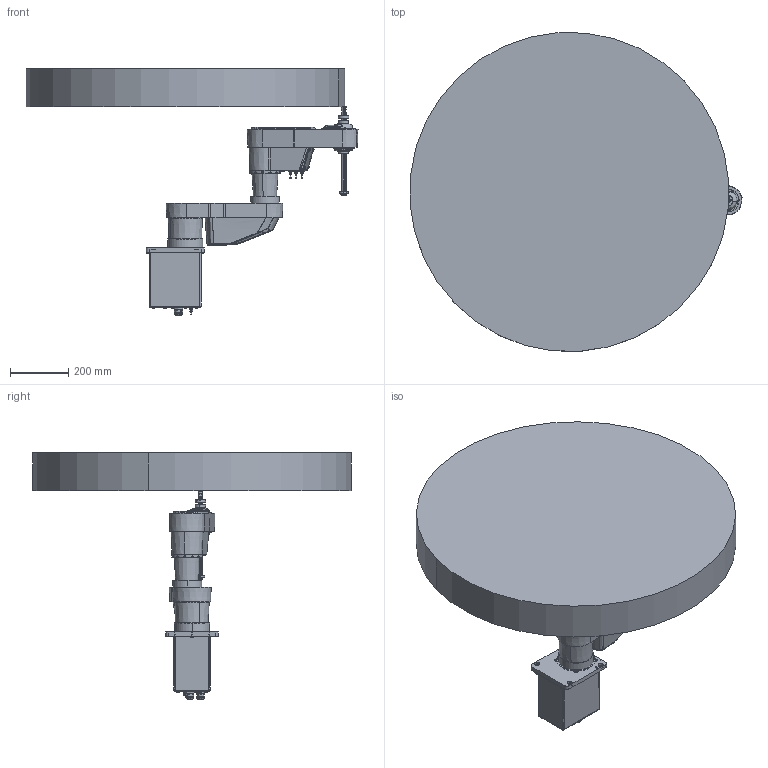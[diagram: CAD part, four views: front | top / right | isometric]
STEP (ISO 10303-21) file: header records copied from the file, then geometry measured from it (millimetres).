
FILE_DESCRIPTION (( 'STEP AP203' ), '1' );
FILE_NAME ('Python550F-B3 1.22FB3.00.000.E.STEP', '2024-05-13T01:11:22', ( '' ), ( '' ), 'SwSTEP 2.0', 'SolidWorks 2021', '' );
FILE_SCHEMA (( 'CONFIG_CONTROL_DESIGN' ));
Length unit declared in the file: millimetre
Products named in the file (6): 葩璃 null-Python550F-B3湮旋蚾饜极-^Python550F-B3 1.22FB3.00.000.E; 葩璃 Python550F-B3菁釱蚾饜极^Python550F-B3 1.22FB3.00.000.E; 葩璃 Python550F-B3馱釬諾潔^Python550F-B3 1.22FB3.00.000.E; Python550F-B3 1.22FB3.00.000.E; 葩璃 Python550F-B3粣蚾饜极^Python550F-B3 1.22FB3.00.000.E; 葩璃 Python550F-B3苤旋蚾饜极^Python550F-B3 1.22FB3.00.000.E
Assembly tree (5 placements, depth 2):
  Python550F-B3 1.22FB3.00.000.E
    葩璃 Python550F-B3菁釱蚾饜极^Python550F-B3 1.22FB3.00.000.E
    葩璃 null-Python550F-B3湮旋蚾饜极-^Python550F-B3 1.22FB3.00.000.E
    葩璃 Python550F-B3苤旋蚾饜极^Python550F-B3 1.22FB3.00.000.E
    葩璃 Python550F-B3粣蚾饜极^Python550F-B3 1.22FB3.00.000.E
    葩璃 Python550F-B3馱釬諾潔^Python550F-B3 1.22FB3.00.000.E
Bounding box: 1143.43 x 1097.24 x 848.64 mm (x, y, z)
Volume: 127727573.5 mm3; surface area: 3616121.2 mm2
Topology: 50 solids, 82 shells, 2562 faces, 6100 edges, 3832 vertices
Faces by surface type: cylinder 947, plane 790, cone 358, bspline 329, torus 126, sphere 12
Entity records: 98866 total; most frequent: CARTESIAN_POINT 39905, DIRECTION 12104, ORIENTED_EDGE 12078, EDGE_CURVE 6048, AXIS2_PLACEMENT_3D 4862, VERTEX_POINT 3832, EDGE_LOOP 3021, CIRCLE 2620
